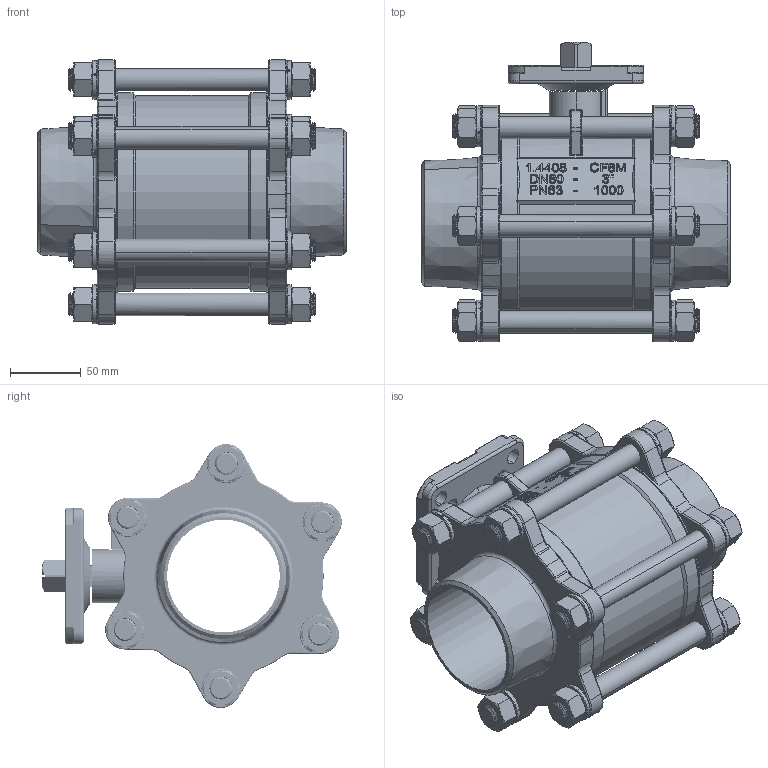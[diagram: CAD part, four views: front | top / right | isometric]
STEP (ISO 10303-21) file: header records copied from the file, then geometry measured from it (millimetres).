
FILE_DESCRIPTION (( 'STEP AP203' ), '1' );
FILE_NAME ('JV-35K (直孔對焊)-UNI-1.STEP', '2010-03-30T02:37:58', ( 'Colling' ), ( 'Collings' ), 'SwSTEP 2.0', 'SolidWorks 2005179', '' );
FILE_SCHEMA (( 'CONFIG_CONTROL_DESIGN' ));
Length unit declared in the file: millimetre
Products named in the file (1): JV-35K (直孔對焊)-UNI-1
Bounding box: 218.52 x 212.45 x 187.25 mm (x, y, z)
Surface area: 282331.1 mm2 (no closed solid volume)
Topology: 0 solids, 54 shells, 1598 faces, 5323 edges, 3669 vertices
Faces by surface type: cylinder 655, plane 372, cone 265, torus 157, bspline 128, sphere 21
Entity records: 112432 total; most frequent: CARTESIAN_POINT 71577, ORIENTED_EDGE 8428, DIRECTION 7458, EDGE_CURVE 5304, VERTEX_POINT 3669, AXIS2_PLACEMENT_3D 2737, VECTOR 1984, LINE 1984
